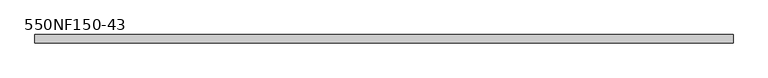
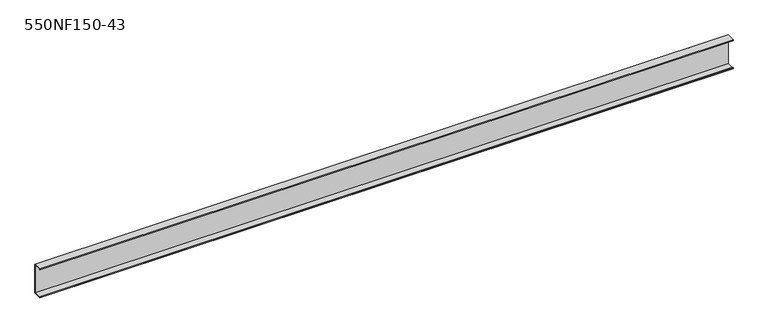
"""IFC4 building model written with IfcOpenShell, lengths in millimetres: beam geometry, BIMSF-SSMA-S : 550NF150-43."""

import ifcopenshell
import ifcopenshell.guid

model = None  # the IFC model being written
_history = None  # IfcOwnerHistory: only IFC2X3 demands one
_inside = {}  # id of a spatial element -> (the spatial element, [elements in it])
_under = {}  # id of a project, library or spatial element -> (it, [spatial elements below it])
_declared = {}  # id of a project -> (the project, [libraries it declares])
_typed = {}  # id of a type object -> (the type object, [elements of that type])
_made_of = {}  # id of a material, layer set ... -> (it, [elements and type objects made of it])


def new_model(schema):
    """Start an empty IFC model of exactly this schema.

    Asked for "IFC4X3", IfcOpenShell would pick the latest addendum, in which some entities
    have other attributes; the version numbers below select the first issue.
    IFC2X3 requires an IfcOwnerHistory on every rooted entity: one is made here for all.
    """
    global model, _history
    if schema == "IFC4X3":
        model = ifcopenshell.file(schema_version=(4, 3, 0, 0))
    else:
        model = ifcopenshell.file(schema=schema)
    _inside.clear()
    _under.clear()
    _declared.clear()
    _typed.clear()
    _made_of.clear()
    _history = None
    if model.schema == "IFC2X3":
        org = make("IfcOrganization", Name="unknown")
        user = make(
            "IfcPersonAndOrganization",
            ThePerson=make("IfcPerson", FamilyName="unknown"),
            TheOrganization=org,
        )
        app = make(
            "IfcApplication",
            ApplicationDeveloper=org,
            Version="unknown",
            ApplicationFullName="unknown",
            ApplicationIdentifier="unknown",
        )
        _history = make(
            "IfcOwnerHistory",
            OwningUser=user,
            OwningApplication=app,
            ChangeAction="ADDED",
            CreationDate=0,
        )
    return model


def make(cls, **values):
    """One entity of the class cls with the attributes given. An attribute that is None is left unset."""
    return model.create_entity(
        cls, **{name: value for name, value in values.items() if value is not None}
    )


def rooted(cls, **values):
    """An entity with a GlobalId (a new one), such as an element, a storey or a relation."""
    return make(cls, GlobalId=ifcopenshell.guid.new(), OwnerHistory=_history, **values)


def si_unit(unit_type, name, prefix=None):
    """IfcSIUnit, for example si_unit("LENGTHUNIT", "METRE", prefix="MILLI")."""
    return make("IfcSIUnit", UnitType=unit_type, Prefix=prefix, Name=name)


def assignment(units):
    """IfcUnitAssignment: the units of a project."""
    return None if units is None else make("IfcUnitAssignment", Units=units)


def point(xyz):
    """IfcCartesianPoint."""
    return None if xyz is None else make("IfcCartesianPoint", Coordinates=xyz)


def direction(xyz):
    """IfcDirection."""
    return None if xyz is None else make("IfcDirection", DirectionRatios=xyz)


def frame(location, z_axis=None, x_axis=None):
    """IfcAxis2Placement3D, a coordinate frame: its origin and axes. An axis left out is left unset."""
    return make(
        "IfcAxis2Placement3D",
        Location=point(location),
        Axis=direction(z_axis),
        RefDirection=direction(x_axis),
    )


def origin():
    """The frame at (0, 0, 0) with its axes left unset."""
    return frame((0.0, 0.0, 0.0))


def place(relative_to, where):
    """IfcLocalPlacement: puts the frame where relative to a parent placement (None: the world)."""
    return make(
        "IfcLocalPlacement", PlacementRelTo=relative_to, RelativePlacement=where
    )


def context(
    kind, dimensions, precision=None, world=None, true_north=None, identifier=None
):
    """IfcGeometricRepresentationContext, for example the 3D "Model" context."""
    return make(
        "IfcGeometricRepresentationContext",
        ContextIdentifier=identifier,
        ContextType=kind,
        CoordinateSpaceDimension=dimensions,
        Precision=precision,
        WorldCoordinateSystem=world,
        TrueNorth=true_north,
    )


def project(units=None, contexts=None):
    """IfcProject with its units and contexts."""
    return rooted(
        "IfcProject",
        Name="project",
        RepresentationContexts=contexts,
        UnitsInContext=assignment(units),
    )


def spatial(cls, under=None, at=None, **own):
    """A site, building, storey or space (cls), placed at a placement, below another one or the project."""
    s = rooted(cls, ObjectPlacement=at, **own)
    if under is not None:
        _under.setdefault(under.id(), (under, []))[1].append(s)
    return s


def polyline(points):
    """IfcPolyline through the points."""
    return make("IfcPolyline", Points=[point(p) for p in points])


def outline(outer, holes=None, kind="AREA"):
    """IfcArbitraryClosedProfileDef: a profile drawn as a closed curve; with holes, ...WithVoids."""
    if holes is None:
        return make("IfcArbitraryClosedProfileDef", ProfileType=kind, OuterCurve=outer)
    return make(
        "IfcArbitraryProfileDefWithVoids",
        ProfileType=kind,
        OuterCurve=outer,
        InnerCurves=holes,
    )


def extrude(swept, where, along, depth):
    """IfcExtrudedAreaSolid: the profile swept, set in the frame where, extruded along a direction by depth."""
    return make(
        "IfcExtrudedAreaSolid",
        SweptArea=swept,
        Position=where,
        ExtrudedDirection=direction(along),
        Depth=depth,
    )


def shape(context_of_items, identifier, shape_type, items):
    """IfcShapeRepresentation: the items that make up one representation, for example the "Body"."""
    return make(
        "IfcShapeRepresentation",
        ContextOfItems=context_of_items,
        RepresentationIdentifier=identifier,
        RepresentationType=shape_type,
        Items=items,
    )


def source(mapping_origin, context_of_items, identifier, shape_type, items):
    """IfcRepresentationMap: a shape defined once, which mapped items show again and again."""
    return make(
        "IfcRepresentationMap",
        MappingOrigin=mapping_origin,
        MappedRepresentation=shape(context_of_items, identifier, shape_type, items),
    )


def transform(
    local_origin,
    x_axis=None,
    y_axis=None,
    z_axis=None,
    scale=None,
    scale2=None,
    scale3=None,
    uniform=True,
):
    """IfcCartesianTransformationOperator3D, or its non-uniform kind. x_axis, y_axis, z_axis: its Axis1, 2, 3."""
    if uniform:
        return make(
            "IfcCartesianTransformationOperator3D",
            Axis1=direction(x_axis),
            Axis2=direction(y_axis),
            LocalOrigin=point(local_origin),
            Scale=scale,
            Axis3=direction(z_axis),
        )
    return make(
        "IfcCartesianTransformationOperator3DnonUniform",
        Axis1=direction(x_axis),
        Axis2=direction(y_axis),
        LocalOrigin=point(local_origin),
        Scale=scale,
        Axis3=direction(z_axis),
        Scale2=scale2,
        Scale3=scale3,
    )


def mapped(mapping_source, mapping_target):
    """IfcMappedItem: shows the shape of a source again, moved by a transform."""
    return make(
        "IfcMappedItem", MappingSource=mapping_source, MappingTarget=mapping_target
    )


def made_of(thing, what):
    """Note that an element or type object is made of a material, layer set ...; save() writes the relation."""
    if what is not None:
        _made_of.setdefault(what.id(), (what, []))[1].append(thing)
    return thing


def element(
    cls,
    number,
    at=None,
    inside=None,
    cuts=None,
    type_object=None,
    material=None,
    context=None,
    identifier="Body",
    shape_type=None,
    held_by="IfcProductDefinitionShape",
    body=None,
    shapes=None,
    **own,
):
    """One element of the class cls, such as IfcWall. Its Tag is "e" and its number.

    at: its placement. inside: the storey or other place that contains it. cuts: it is an
    opening in that element (IfcRelVoidsElement). A single representation is given by context,
    identifier, shape_type and body (its items); several are given by shapes. held_by: the class
    of the entity that holds the representations. save() writes the other relations.
    """
    e = rooted(cls, Tag="e%d" % number, ObjectPlacement=at, **own)
    if body is not None:
        shapes = [shape(context, identifier, shape_type, body)]
    if shapes is not None:
        e.Representation = make(held_by, Representations=shapes)
    if inside is not None:
        _inside.setdefault(inside.id(), (inside, []))[1].append(e)
    if cuts is not None:
        rooted(
            "IfcRelVoidsElement", RelatingBuildingElement=cuts, RelatedOpeningElement=e
        )
    if type_object is not None:
        _typed.setdefault(type_object.id(), (type_object, []))[1].append(e)
    return made_of(e, material)


def aggregate(whole, parts):
    """IfcRelAggregates: a whole, such as a stair, and the parts it consists of."""
    return rooted("IfcRelAggregates", RelatingObject=whole, RelatedObjects=parts)


def save(model, path):
    """Write the relations noted so far, then the file.

    IfcRelAggregates (storeys below a building ...), IfcRelContainedInSpatialStructure (elements
    in a storey), IfcRelDefinesByType, IfcRelAssociatesMaterial and IfcRelDeclares: one each for
    every whole, place, type object, material and project.
    """
    for whole, parts in _under.values():
        aggregate(whole, parts)
    for where, things in _inside.values():
        rooted(
            "IfcRelContainedInSpatialStructure",
            RelatedElements=things,
            RelatingStructure=where,
        )
    for kind, things in _typed.values():
        rooted("IfcRelDefinesByType", RelatedObjects=things, RelatingType=kind)
    for what, things in _made_of.values():
        rooted("IfcRelAssociatesMaterial", RelatedObjects=things, RelatingMaterial=what)
    for by, libraries in _declared.values():
        rooted("IfcRelDeclares", RelatingContext=by, RelatedDefinitions=libraries)
    model.write(path)


def beam_550nf150_43_cb838aee(model_context):
    return source(origin(), model_context, "Body", "SweptSolid", [
        extrude(outline(polyline([(19.05, 69.85), (19.05, -69.85), (-19.05, -69.85), (-19.05, -65.0748), (-17.9003158, -65.0748), (-17.9003158, -68.7003158), (17.9003158, -68.7003158), (17.9003158, 68.7003158), (-17.9003158, 68.7003158), (-17.9003158, 65.0748), (-19.05, 65.0748), (-19.05, 69.85), (19.05, 69.85)])), frame((-1585.11875, 0.0, 0.0), z_axis=(1.0, 0.0, 0.0), x_axis=(0.0, 1.0, 0.0)), (0.0, 0.0, 1.0), 3170.2375),
    ])


if __name__ == "__main__":
    model = new_model("IFC4")
    model_context = context("Model", 3, world=origin())
    ifc_project = project(units=[si_unit("LENGTHUNIT", "METRE", prefix="MILLI")], contexts=[model_context])
    site = spatial("IfcSite", under=ifc_project)
    building = spatial("IfcBuilding", under=site)
    placement = place(None, origin())
    beam_550nf150_43_shape = beam_550nf150_43_cb838aee(model_context)
    element("IfcBeam", 1, ObjectType="BIMSF-SSMA-S : 550NF150-43", at=placement, inside=building, context=model_context, shape_type="MappedRepresentation", body=[
        mapped(beam_550nf150_43_shape, transform((0.0, 0.0, 0.0), x_axis=(1.0, 0.0, 0.0), y_axis=(0.0, 1.0, 0.0), z_axis=(0.0, 0.0, 1.0))),
    ])
    save(model, "model.ifc")
